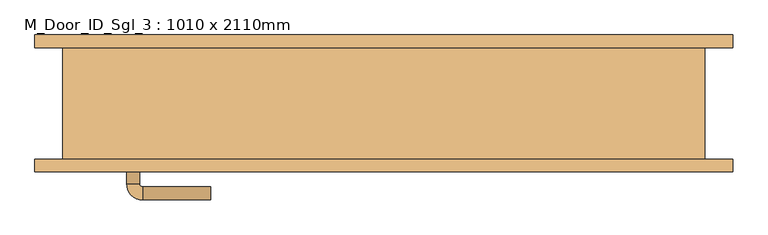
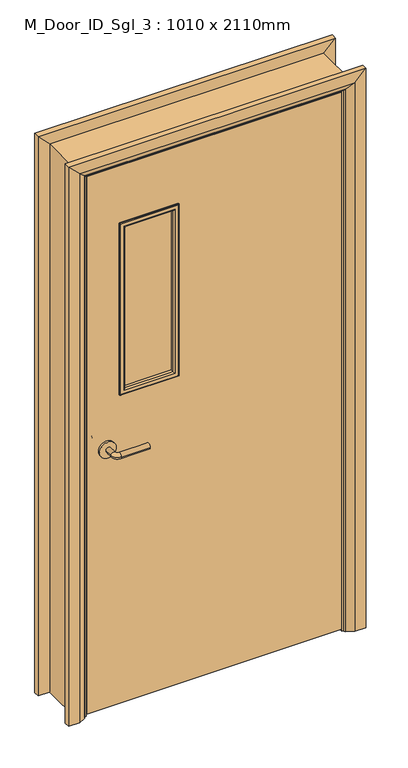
"""IFC4 building model written with IfcOpenShell, lengths in millimetres: door geometry, M_Door_ID_Sgl_3 : 1010 x 2110mm."""

import ifcopenshell
import ifcopenshell.guid

model = None  # the IFC model being written
_history = None  # IfcOwnerHistory: only IFC2X3 demands one
_inside = {}  # id of a spatial element -> (the spatial element, [elements in it])
_under = {}  # id of a project, library or spatial element -> (it, [spatial elements below it])
_declared = {}  # id of a project -> (the project, [libraries it declares])
_typed = {}  # id of a type object -> (the type object, [elements of that type])
_made_of = {}  # id of a material, layer set ... -> (it, [elements and type objects made of it])


def new_model(schema):
    """Start an empty IFC model of exactly this schema.

    Asked for "IFC4X3", IfcOpenShell would pick the latest addendum, in which some entities
    have other attributes; the version numbers below select the first issue.
    IFC2X3 requires an IfcOwnerHistory on every rooted entity: one is made here for all.
    """
    global model, _history
    if schema == "IFC4X3":
        model = ifcopenshell.file(schema_version=(4, 3, 0, 0))
    else:
        model = ifcopenshell.file(schema=schema)
    _inside.clear()
    _under.clear()
    _declared.clear()
    _typed.clear()
    _made_of.clear()
    _history = None
    if model.schema == "IFC2X3":
        org = make("IfcOrganization", Name="unknown")
        user = make(
            "IfcPersonAndOrganization",
            ThePerson=make("IfcPerson", FamilyName="unknown"),
            TheOrganization=org,
        )
        app = make(
            "IfcApplication",
            ApplicationDeveloper=org,
            Version="unknown",
            ApplicationFullName="unknown",
            ApplicationIdentifier="unknown",
        )
        _history = make(
            "IfcOwnerHistory",
            OwningUser=user,
            OwningApplication=app,
            ChangeAction="ADDED",
            CreationDate=0,
        )
    return model


def make(cls, **values):
    """One entity of the class cls with the attributes given. An attribute that is None is left unset."""
    return model.create_entity(
        cls, **{name: value for name, value in values.items() if value is not None}
    )


def rooted(cls, **values):
    """An entity with a GlobalId (a new one), such as an element, a storey or a relation."""
    return make(cls, GlobalId=ifcopenshell.guid.new(), OwnerHistory=_history, **values)


def si_unit(unit_type, name, prefix=None):
    """IfcSIUnit, for example si_unit("LENGTHUNIT", "METRE", prefix="MILLI")."""
    return make("IfcSIUnit", UnitType=unit_type, Prefix=prefix, Name=name)


def assignment(units):
    """IfcUnitAssignment: the units of a project."""
    return None if units is None else make("IfcUnitAssignment", Units=units)


def point(xyz):
    """IfcCartesianPoint."""
    return None if xyz is None else make("IfcCartesianPoint", Coordinates=xyz)


def direction(xyz):
    """IfcDirection."""
    return None if xyz is None else make("IfcDirection", DirectionRatios=xyz)


def frame(location, z_axis=None, x_axis=None):
    """IfcAxis2Placement3D, a coordinate frame: its origin and axes. An axis left out is left unset."""
    return make(
        "IfcAxis2Placement3D",
        Location=point(location),
        Axis=direction(z_axis),
        RefDirection=direction(x_axis),
    )


def frame_2d(location, x_axis=None):
    """IfcAxis2Placement2D, a coordinate frame in the plane: its origin and x axis."""
    return make(
        "IfcAxis2Placement2D", Location=point(location), RefDirection=direction(x_axis)
    )


def origin():
    """The frame at (0, 0, 0) with its axes left unset."""
    return frame((0.0, 0.0, 0.0))


def place(relative_to, where):
    """IfcLocalPlacement: puts the frame where relative to a parent placement (None: the world)."""
    return make(
        "IfcLocalPlacement", PlacementRelTo=relative_to, RelativePlacement=where
    )


def context(
    kind, dimensions, precision=None, world=None, true_north=None, identifier=None
):
    """IfcGeometricRepresentationContext, for example the 3D "Model" context."""
    return make(
        "IfcGeometricRepresentationContext",
        ContextIdentifier=identifier,
        ContextType=kind,
        CoordinateSpaceDimension=dimensions,
        Precision=precision,
        WorldCoordinateSystem=world,
        TrueNorth=true_north,
    )


def project(units=None, contexts=None):
    """IfcProject with its units and contexts."""
    return rooted(
        "IfcProject",
        Name="project",
        RepresentationContexts=contexts,
        UnitsInContext=assignment(units),
    )


def spatial(cls, under=None, at=None, **own):
    """A site, building, storey or space (cls), placed at a placement, below another one or the project."""
    s = rooted(cls, ObjectPlacement=at, **own)
    if under is not None:
        _under.setdefault(under.id(), (under, []))[1].append(s)
    return s


def polyline(points):
    """IfcPolyline through the points."""
    return make("IfcPolyline", Points=[point(p) for p in points])


def circle_curve(where, radius):
    """IfcCircle in the frame where."""
    return make("IfcCircle", Position=where, Radius=radius)


def ellipse_curve(where, semi_axis1, semi_axis2):
    """IfcEllipse in the frame where."""
    return make(
        "IfcEllipse", Position=where, SemiAxis1=semi_axis1, SemiAxis2=semi_axis2
    )


def trimmed(basis, trim1, trim2, sense, master):
    """IfcTrimmedCurve: the piece of a basis curve between two trims."""
    return make(
        "IfcTrimmedCurve",
        BasisCurve=basis,
        Trim1=trim1,
        Trim2=trim2,
        SenseAgreement=sense,
        MasterRepresentation=master,
    )


def segment(curve, same_sense, transition):
    """IfcCompositeCurveSegment."""
    return make(
        "IfcCompositeCurveSegment",
        Transition=transition,
        SameSense=same_sense,
        ParentCurve=curve,
    )


def composite_curve(segments, self_intersect=None):
    """IfcCompositeCurve: segments joined end to end."""
    return make("IfcCompositeCurve", Segments=segments, SelfIntersect=self_intersect)


def outline(outer, holes=None, kind="AREA"):
    """IfcArbitraryClosedProfileDef: a profile drawn as a closed curve; with holes, ...WithVoids."""
    if holes is None:
        return make("IfcArbitraryClosedProfileDef", ProfileType=kind, OuterCurve=outer)
    return make(
        "IfcArbitraryProfileDefWithVoids",
        ProfileType=kind,
        OuterCurve=outer,
        InnerCurves=holes,
    )


def extrude(swept, where, along, depth):
    """IfcExtrudedAreaSolid: the profile swept, set in the frame where, extruded along a direction by depth."""
    return make(
        "IfcExtrudedAreaSolid",
        SweptArea=swept,
        Position=where,
        ExtrudedDirection=direction(along),
        Depth=depth,
    )


def faces_of(points, faces, orient=None, outer=None):
    """IfcFace entities. A face is a list of loops; a loop is a list of indices into points, from 0.

    orient and outer hold one flag for each loop. By default every Orientation is true, the
    first loop of a face is its IfcFaceOuterBound and the others are IfcFaceBound.
    """
    made = []
    for i, loops in enumerate(faces):
        bounds = []
        for j, loop in enumerate(loops):
            is_outer = j == 0 if outer is None else outer[i][j]
            bounds.append(
                make(
                    "IfcFaceOuterBound" if is_outer else "IfcFaceBound",
                    Bound=make("IfcPolyLoop", Polygon=[points[k] for k in loop]),
                    Orientation=True if orient is None else orient[i][j],
                )
            )
        made.append(make("IfcFace", Bounds=bounds))
    return made


def faceted_brep(points, faces, orient=None, outer=None, voids=None):
    """IfcFacetedBrep: a solid bounded by flat faces; with voids (closed shells), ...WithVoids."""
    shared = [point(p) for p in points]
    hull = make("IfcClosedShell", CfsFaces=faces_of(shared, faces, orient, outer))
    if voids is None:
        return make("IfcFacetedBrep", Outer=hull)
    return make(
        "IfcFacetedBrepWithVoids",
        Outer=hull,
        Voids=[
            make(cls, CfsFaces=faces_of(shared, fs, o, b)) for cls, fs, o, b in voids
        ],
    )


def shape(context_of_items, identifier, shape_type, items):
    """IfcShapeRepresentation: the items that make up one representation, for example the "Body"."""
    return make(
        "IfcShapeRepresentation",
        ContextOfItems=context_of_items,
        RepresentationIdentifier=identifier,
        RepresentationType=shape_type,
        Items=items,
    )


def source(mapping_origin, context_of_items, identifier, shape_type, items):
    """IfcRepresentationMap: a shape defined once, which mapped items show again and again."""
    return make(
        "IfcRepresentationMap",
        MappingOrigin=mapping_origin,
        MappedRepresentation=shape(context_of_items, identifier, shape_type, items),
    )


def transform(
    local_origin,
    x_axis=None,
    y_axis=None,
    z_axis=None,
    scale=None,
    scale2=None,
    scale3=None,
    uniform=True,
):
    """IfcCartesianTransformationOperator3D, or its non-uniform kind. x_axis, y_axis, z_axis: its Axis1, 2, 3."""
    if uniform:
        return make(
            "IfcCartesianTransformationOperator3D",
            Axis1=direction(x_axis),
            Axis2=direction(y_axis),
            LocalOrigin=point(local_origin),
            Scale=scale,
            Axis3=direction(z_axis),
        )
    return make(
        "IfcCartesianTransformationOperator3DnonUniform",
        Axis1=direction(x_axis),
        Axis2=direction(y_axis),
        LocalOrigin=point(local_origin),
        Scale=scale,
        Axis3=direction(z_axis),
        Scale2=scale2,
        Scale3=scale3,
    )


def mapped(mapping_source, mapping_target):
    """IfcMappedItem: shows the shape of a source again, moved by a transform."""
    return make(
        "IfcMappedItem", MappingSource=mapping_source, MappingTarget=mapping_target
    )


def made_of(thing, what):
    """Note that an element or type object is made of a material, layer set ...; save() writes the relation."""
    if what is not None:
        _made_of.setdefault(what.id(), (what, []))[1].append(thing)
    return thing


def element(
    cls,
    number,
    at=None,
    inside=None,
    cuts=None,
    type_object=None,
    material=None,
    context=None,
    identifier="Body",
    shape_type=None,
    held_by="IfcProductDefinitionShape",
    body=None,
    shapes=None,
    **own,
):
    """One element of the class cls, such as IfcWall. Its Tag is "e" and its number.

    at: its placement. inside: the storey or other place that contains it. cuts: it is an
    opening in that element (IfcRelVoidsElement). A single representation is given by context,
    identifier, shape_type and body (its items); several are given by shapes. held_by: the class
    of the entity that holds the representations. save() writes the other relations.
    """
    e = rooted(cls, Tag="e%d" % number, ObjectPlacement=at, **own)
    if body is not None:
        shapes = [shape(context, identifier, shape_type, body)]
    if shapes is not None:
        e.Representation = make(held_by, Representations=shapes)
    if inside is not None:
        _inside.setdefault(inside.id(), (inside, []))[1].append(e)
    if cuts is not None:
        rooted(
            "IfcRelVoidsElement", RelatingBuildingElement=cuts, RelatedOpeningElement=e
        )
    if type_object is not None:
        _typed.setdefault(type_object.id(), (type_object, []))[1].append(e)
    return made_of(e, material)


def aggregate(whole, parts):
    """IfcRelAggregates: a whole, such as a stair, and the parts it consists of."""
    return rooted("IfcRelAggregates", RelatingObject=whole, RelatedObjects=parts)


def save(model, path):
    """Write the relations noted so far, then the file.

    IfcRelAggregates (storeys below a building ...), IfcRelContainedInSpatialStructure (elements
    in a storey), IfcRelDefinesByType, IfcRelAssociatesMaterial and IfcRelDeclares: one each for
    every whole, place, type object, material and project.
    """
    for whole, parts in _under.values():
        aggregate(whole, parts)
    for where, things in _inside.values():
        rooted(
            "IfcRelContainedInSpatialStructure",
            RelatedElements=things,
            RelatingStructure=where,
        )
    for kind, things in _typed.values():
        rooted("IfcRelDefinesByType", RelatedObjects=things, RelatingType=kind)
    for what, things in _made_of.values():
        rooted("IfcRelAssociatesMaterial", RelatedObjects=things, RelatingMaterial=what)
    for by, libraries in _declared.values():
        rooted("IfcRelDeclares", RelatingContext=by, RelatedDefinitions=libraries)
    model.write(path)


def plane_surface(at):
    """IfcPlane: the flat surface through the origin of the frame at, square to its z axis."""
    return make("IfcPlane", Position=at)


def cylinder_surface(at, radius):
    """IfcCylindricalSurface: all points at the distance radius from the z axis of the frame at."""
    return make("IfcCylindricalSurface", Position=at, Radius=radius)


def revolved_surface(curve, axis_point, axis_direction):
    """IfcSurfaceOfRevolution: the curve turned about the line through axis_point along axis_direction."""
    return make(
        "IfcSurfaceOfRevolution",
        SweptCurve=make("IfcArbitraryOpenProfileDef", ProfileType="CURVE", Curve=curve),
        AxisPosition=make("IfcAxis1Placement", Location=point(axis_point), Axis=direction(axis_direction)),
    )


def advanced_brep(points, edges, surfaces, faces):
    """IfcAdvancedBrep: a solid bounded by faces that lie on surfaces and meet in shared edges.

    An edge is (start, end): straight between two places in points (the first is 0);
    or (start, end, curve); or (start, end, curve, False) where it runs against its curve.
    A face is (place in surfaces, loops), or (place, loops, False) where it looks against
    its surface's normal. A loop lists edges by number (the first is 1), with a minus sign
    where the edge is run from its end to its start. The first loop is the outer one.
    """
    corners = [point(p) for p in points]
    vertices = [make("IfcVertexPoint", VertexGeometry=c) for c in corners]
    made = []
    for start, end, *more in edges:
        made.append(
            make(
                "IfcEdgeCurve",
                EdgeStart=vertices[start],
                EdgeEnd=vertices[end],
                EdgeGeometry=more[0] if more else make("IfcPolyline", Points=[corners[start], corners[end]]),
                SameSense=more[1] if len(more) > 1 else True,
            )
        )
    hull = []
    for where, loops, *sense in faces:
        bounds = []
        for j, loop in enumerate(loops):
            ring = [make("IfcOrientedEdge", EdgeElement=made[abs(k) - 1], Orientation=k > 0) for k in loop]
            bounds.append(
                make(
                    "IfcFaceOuterBound" if j == 0 else "IfcFaceBound",
                    Bound=make("IfcEdgeLoop", EdgeList=ring),
                    Orientation=True,
                )
            )
        hull.append(make("IfcAdvancedFace", Bounds=bounds, FaceSurface=surfaces[where], SameSense=sense[0] if sense else True))
    return make("IfcAdvancedBrep", Outer=make("IfcClosedShell", CfsFaces=hull))


def m_door_id_sgl_3_1010_x_2110mm_085e0de1(model_context):
    return source(origin(), model_context, "Body", "SolidModel", [
        advanced_brep(
        [(-398.0, -40.0, 1000.0), (-378.0, -40.0, 1000.0), (-398.0, -10.0, 1000.0), (-378.0, -10.0, 1000.0), (-373.0, -5.0, 1000.0), (-373.0, 15.0, 1000.0), (-268.0, 15.0, 1000.0), (-268.0, -5.0, 1000.0)],
        [
            (0, 1, circle_curve(frame((-388.0, -40.0, 1000.0), z_axis=(0.0, -1.0, 0.0), x_axis=(1.0, 0.0, 0.0)), 10.0)),
            (1, 0, circle_curve(frame((-388.0, -40.0, 1000.0), z_axis=(0.0, -1.0, 0.0), x_axis=(1.0, 0.0, 0.0)), 10.0)),
            (0, 2),
            (2, 3, circle_curve(frame((-388.0, -10.0, 1000.0), z_axis=(0.0, -1.0, 0.0), x_axis=(1.0, 0.0, 0.0)), 10.0)),
            (3, 1),
            (3, 2, circle_curve(frame((-388.0, -10.0, 1000.0), z_axis=(0.0, -1.0, 0.0), x_axis=(1.0, 0.0, 0.0)), 10.0)),
            (4, 3, circle_curve(frame((-373.0, -10.0, 1000.0), z_axis=(0.0, 0.0, 1.0), x_axis=(-1.0, 0.0, 0.0)), 5.0)),
            (2, 5, circle_curve(frame((-373.0, -10.0, 1000.0), z_axis=(0.0, 0.0, -1.0), x_axis=(-1.0, 0.0, 0.0)), 25.0)),
            (5, 4, circle_curve(frame((-373.0, 5.0, 1000.0), z_axis=(-1.0, 0.0, 0.0), x_axis=(0.0, -1.0, 0.0)), 10.0)),
            (4, 5, circle_curve(frame((-373.0, 5.0, 1000.0), z_axis=(-1.0, 0.0, 0.0), x_axis=(0.0, -1.0, 0.0)), 10.0)),
            (6, 7, circle_curve(frame((-268.0, 5.0, 1000.0), z_axis=(1.0, 0.0, 0.0), x_axis=(0.0, -1.0, 0.0)), 10.0)),
            (7, 6, circle_curve(frame((-268.0, 5.0, 1000.0), z_axis=(1.0, 0.0, 0.0), x_axis=(0.0, -1.0, 0.0)), 10.0)),
            (5, 6),
            (7, 4),
        ],
        [
            plane_surface(frame((-388.0, -40.0, 1000.0), z_axis=(0.0, -1.0, 0.0), x_axis=(0.0, 0.0, 1.0))),
            cylinder_surface(frame((-388.0, -40.0, 1000.0), z_axis=(0.0, -1.0, 0.0), x_axis=(1.0, 0.0, 0.0)), 10.0),
            revolved_surface(trimmed(ellipse_curve(frame((-388.0, -10.0, 1000.0), z_axis=(0.0, -1.0, 0.0), x_axis=(1.0, 0.0, 0.0)), 10.0, 10.0), [point((-398.0, -10.0, 1000.0))], [point((-378.0, -10.0, 1000.0))], True, "CARTESIAN"), (-373.0, -10.0, 1000.0), (0.0, 0.0, -1.0)),
            revolved_surface(trimmed(ellipse_curve(frame((-388.0, -10.0, 1000.0), z_axis=(0.0, -1.0, 0.0), x_axis=(1.0, 0.0, 0.0)), 10.0, 10.0), [point((-378.0, -10.0, 1000.0))], [point((-398.0, -10.0, 1000.0))], True, "CARTESIAN"), (-373.0, -10.0, 1000.0), (0.0, 0.0, -1.0)),
            plane_surface(frame((-268.0, 5.0, 1000.0), z_axis=(1.0, 0.0, 0.0), x_axis=(0.0, 0.0, 1.0))),
            cylinder_surface(frame((-373.0, 5.0, 1000.0), z_axis=(-1.0, 0.0, 0.0), x_axis=(0.0, -1.0, 0.0)), 10.0),
        ],
        [
            (0, [[1, 2]]),
            (1, [[-1, 3, 4, 5]]),
            (1, [[-2, -5, 6, -3]]),
            (2, [[7, -4, 8, 9]]),
            (3, [[-8, -6, -7, 10]]),
            (4, [[11, 12]]),
            (5, [[-9, 13, -12, 14]]),
            (5, [[-10, -14, -11, -13]]),
        ],
    ),
        extrude(outline(composite_curve([segment(trimmed(circle_curve(frame_2d((1000.0, -390.5)), 30.0), [point((1000.0, -420.5))], [point((1000.0, -360.5))], False, "CARTESIAN"), True, "CONTINUOUS"), segment(trimmed(circle_curve(frame_2d((1000.0, -390.5)), 30.0), [point((1000.0, -360.5))], [point((1000.0, -420.5))], False, "CARTESIAN"), True, "CONTINUOUS")], self_intersect=False)), frame((0.0, -48.0, 0.0), z_axis=(0.0, 1.0, 0.0), x_axis=(0.0, 0.0, 1.0)), (0.0, 0.0, 1.0), 8.0),
        advanced_brep(
        [(-398.0, -94.0, 1000.0), (-378.0, -94.0, 1000.0), (-378.0, -124.0, 1000.0), (-398.0, -124.0, 1000.0), (-373.0, -129.0, 1000.0), (-373.0, -149.0, 1000.0), (-268.0, -149.0, 1000.0), (-268.0, -129.0, 1000.0)],
        [
            (0, 1, circle_curve(frame((-388.0, -94.0, 1000.0), z_axis=(0.0, 1.0, 0.0), x_axis=(1.0, 0.0, 0.0)), 10.0)),
            (1, 0, circle_curve(frame((-388.0, -94.0, 1000.0), z_axis=(0.0, 1.0, 0.0), x_axis=(1.0, 0.0, 0.0)), 10.0)),
            (1, 2),
            (2, 3, circle_curve(frame((-388.0, -124.0, 1000.0), z_axis=(0.0, 1.0, 0.0), x_axis=(1.0, 0.0, 0.0)), 10.0)),
            (3, 0),
            (3, 2, circle_curve(frame((-388.0, -124.0, 1000.0), z_axis=(0.0, 1.0, 0.0), x_axis=(1.0, 0.0, 0.0)), 10.0)),
            (4, 5, circle_curve(frame((-373.0, -139.0, 1000.0), z_axis=(-1.0, 0.0, 0.0), x_axis=(0.0, 1.0, 0.0)), 10.0)),
            (5, 3, circle_curve(frame((-373.0, -124.0, 1000.0), z_axis=(0.0, 0.0, -1.0), x_axis=(-1.0, 0.0, 0.0)), 25.0)),
            (2, 4, circle_curve(frame((-373.0, -124.0, 1000.0), z_axis=(0.0, 0.0, 1.0), x_axis=(-1.0, 0.0, 0.0)), 5.0)),
            (5, 4, circle_curve(frame((-373.0, -139.0, 1000.0), z_axis=(-1.0, 0.0, 0.0), x_axis=(0.0, 1.0, 0.0)), 10.0)),
            (6, 7, circle_curve(frame((-268.0, -139.0, 1000.0), z_axis=(1.0, 0.0, 0.0), x_axis=(0.0, 1.0, 0.0)), 10.0)),
            (7, 6, circle_curve(frame((-268.0, -139.0, 1000.0), z_axis=(1.0, 0.0, 0.0), x_axis=(0.0, 1.0, 0.0)), 10.0)),
            (4, 7),
            (6, 5),
        ],
        [
            plane_surface(frame((-388.0, -94.0, 1000.0), z_axis=(0.0, 1.0, 0.0), x_axis=(0.0, 0.0, 1.0))),
            cylinder_surface(frame((-388.0, -94.0, 1000.0), z_axis=(0.0, 1.0, 0.0), x_axis=(1.0, 0.0, 0.0)), 10.0),
            revolved_surface(trimmed(ellipse_curve(frame((-388.0, -124.0, 1000.0), z_axis=(0.0, -1.0, 0.0), x_axis=(1.0, 0.0, 0.0)), 10.0, 10.0), [point((-398.0, -124.0, 1000.0))], [point((-378.0, -124.0, 1000.0))], True, "CARTESIAN"), (-373.0, -124.0, 1000.0), (0.0, 0.0, -1.0)),
            revolved_surface(trimmed(ellipse_curve(frame((-388.0, -124.0, 1000.0), z_axis=(0.0, -1.0, 0.0), x_axis=(1.0, 0.0, 0.0)), 10.0, 10.0), [point((-378.0, -124.0, 1000.0))], [point((-398.0, -124.0, 1000.0))], True, "CARTESIAN"), (-373.0, -124.0, 1000.0), (0.0, 0.0, -1.0)),
            plane_surface(frame((-268.0, -139.0, 1000.0), z_axis=(1.0, 0.0, 0.0), x_axis=(0.0, 0.0, 1.0))),
            cylinder_surface(frame((-373.0, -139.0, 1000.0), z_axis=(-1.0, 0.0, 0.0), x_axis=(0.0, 1.0, 0.0)), 10.0),
        ],
        [
            (0, [[1, 2]]),
            (1, [[3, 4, 5, -2]]),
            (1, [[-5, 6, -3, -1]]),
            (2, [[7, 8, -4, 9]]),
            (3, [[10, -9, -6, -8]]),
            (4, [[11, 12]]),
            (5, [[13, -11, 14, -7]]),
            (5, [[-14, -12, -13, -10]]),
        ],
    ),
        extrude(outline(composite_curve([segment(trimmed(circle_curve(frame_2d((1000.0, -390.5)), 30.0), [point((1000.0, -420.5))], [point((1000.0, -360.5))], False, "CARTESIAN"), True, "CONTINUOUS"), segment(trimmed(circle_curve(frame_2d((1000.0, -390.5)), 30.0), [point((1000.0, -360.5))], [point((1000.0, -420.5))], False, "CARTESIAN"), True, "CONTINUOUS")], self_intersect=False)), frame((0.0, -94.0, 0.0), z_axis=(0.0, 1.0, 0.0), x_axis=(0.0, 0.0, 1.0)), (0.0, 0.0, 1.0), 8.0),
        extrude(outline(polyline([(2068.0, -463.0), (8.0, -463.0), (8.0, 463.0), (2068.0, 463.0), (2068.0, -463.0)]), holes=[polyline([(1843.0, -138.0), (1200.0, -138.0), (1200.0, -338.0), (1843.0, -338.0), (1843.0, -138.0)])]), frame((0.0, -86.0, 0.0), z_axis=(0.0, 1.0, 0.0), x_axis=(0.0, 0.0, 1.0)), (0.0, 0.0, 1.0), 38.0),
        faceted_brep([(-465.0, -86.0, 0.0), (-497.0, -86.0, 0.0), (-497.0, 86.0, 0.0), (-465.0, 86.0, 0.0), (-465.0, 86.0, 2070.0), (-465.0, -86.0, 2070.0), (-497.0, 86.0, 2102.0), (-497.0, -86.0, 2102.0), (465.0, -86.0, 0.0), (465.0, 86.0, 0.0), (497.0, 86.0, 0.0), (497.0, -86.0, 0.0), (465.0, -86.0, 2070.0), (497.0, -86.0, 2102.0), (497.0, 86.0, 2102.0), (465.0, 86.0, 2070.0)], [[[0, 1, 2, 3]], [[3, 4, 5, 0]], [[2, 6, 4, 3]], [[1, 7, 6, 2]], [[0, 5, 7, 1]], [[8, 9, 10, 11]], [[12, 8, 11, 13]], [[13, 11, 10, 14]], [[14, 10, 9, 15]], [[15, 9, 8, 12]], [[4, 15, 12, 5]], [[6, 14, 15, 4]], [[7, 13, 14, 6]], [[5, 12, 13, 7]]]),
        advanced_brep(
        [(-540.0, 106.0, 0.0), (-500.0, 106.0, 0.0), (-474.0, 92.0, 0.0), (-470.0, 86.0, 0.0), (-540.0, 86.0, 0.0), (-540.0, 86.0, 2145.0), (-540.0, 106.0, 2145.0), (-470.0, 86.0, 2075.0), (-474.0, 92.0, 2079.0), (-500.0, 106.0, 2105.0), (540.0, 106.0, 0.0), (540.0, 86.0, 0.0), (470.0, 86.0, 0.0), (474.0, 92.0, 0.0), (500.0, 106.0, 0.0), (540.0, 106.0, 2145.0), (500.0, 106.0, 2105.0), (474.0, 92.0, 2079.0), (470.0, 86.0, 2075.0), (540.0, 86.0, 2145.0)],
        [
            (0, 1),
            (1, 2),
            (2, 3, circle_curve(frame((-478.0, 85.0, 0.0), z_axis=(0.0, 0.0, -1.0), x_axis=(-1.0, 0.0, 0.0)), 8.0622577)),
            (3, 4),
            (4, 0),
            (4, 5),
            (5, 6),
            (6, 0),
            (3, 7),
            (7, 5),
            (2, 8),
            (8, 7, ellipse_curve(frame((-478.0, 85.0, 2083.0), z_axis=(-0.7071067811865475, 0.0, -0.7071067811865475), x_axis=(0.7071067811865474, 0.0, -0.7071067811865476)), 11.4017543, 8.0622577)),
            (1, 9),
            (9, 8),
            (6, 9),
            (10, 11),
            (11, 12),
            (12, 13, circle_curve(frame((478.0, 85.0, 0.0), z_axis=(0.0, 0.0, -1.0), x_axis=(1.0, 0.0, 0.0)), 8.0622577)),
            (13, 14),
            (14, 10),
            (15, 10),
            (14, 16),
            (16, 15),
            (13, 17),
            (17, 16),
            (12, 18),
            (18, 17, ellipse_curve(frame((478.0, 85.0, 2083.0), z_axis=(0.7071067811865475, 0.0, -0.7071067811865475), x_axis=(0.7071067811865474, 0.0, 0.7071067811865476)), 11.4017543, 8.0622577)),
            (11, 19),
            (19, 18),
            (15, 19),
            (5, 19),
            (15, 6),
            (7, 18),
            (8, 17),
            (9, 16),
        ],
        [
            plane_surface(frame((-470.0, 158.8010989, 0.0), z_axis=(0.0, 0.0, -1.0), x_axis=(1.0, 0.0, 0.0))),
            plane_surface(frame((-540.0, 106.0, 0.0), z_axis=(-1.0, 0.0, 0.0), x_axis=(0.0, 0.0, 1.0))),
            plane_surface(frame((-540.0, 86.0, 0.0), z_axis=(0.0, -1.0, 0.0), x_axis=(0.0, 0.0, 1.0))),
            cylinder_surface(frame((-478.0, 85.0, 0.0), z_axis=(0.0, 0.0, -1.0), x_axis=(-1.0, 0.0, 0.0)), 8.0622577),
            plane_surface(frame((-474.0, 92.0, 0.0), z_axis=(0.4740998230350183, 0.8804710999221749, 0.0), x_axis=(0.0, 0.0, 1.0))),
            plane_surface(frame((-500.0, 106.0, 0.0), z_axis=(0.0, 1.0, 0.0), x_axis=(0.0, 0.0, 1.0))),
            plane_surface(frame((470.0, 158.8010989, 0.0), z_axis=(0.0, 0.0, -1.0), x_axis=(-1.0, 0.0, 0.0))),
            plane_surface(frame((500.0, 106.0, 2105.0), z_axis=(0.0, 1.0, 0.0), x_axis=(0.0, 0.0, -1.0))),
            plane_surface(frame((474.0, 92.0, 2079.0), z_axis=(-0.4740998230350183, 0.8804710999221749, 0.0), x_axis=(0.0, 0.0, -1.0))),
            cylinder_surface(frame((478.0, 85.0, 2075.0), z_axis=(0.0, 0.0, 1.0), x_axis=(1.0, 0.0, 0.0)), 8.0622577),
            plane_surface(frame((540.0, 86.0, 2145.0), z_axis=(0.0, -1.0, 0.0), x_axis=(0.0, 0.0, -1.0))),
            plane_surface(frame((540.0, 106.0, 2145.0), z_axis=(1.0, 0.0, 0.0), x_axis=(0.0, 0.0, -1.0))),
            plane_surface(frame((-540.0, 106.0, 2145.0), z_axis=(0.0, 0.0, 1.0), x_axis=(1.0, 0.0, 0.0))),
            plane_surface(frame((-540.0, 86.0, 2145.0), z_axis=(0.0, -1.0, 0.0), x_axis=(1.0, 0.0, 0.0))),
            cylinder_surface(frame((-470.0, 85.0, 2083.0), z_axis=(-1.0, 0.0, 0.0), x_axis=(0.0, 0.0, 1.0)), 8.0622577),
            plane_surface(frame((-474.0, 92.0, 2079.0), z_axis=(0.0, 0.8804710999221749, -0.4740998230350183), x_axis=(1.0, 0.0, 0.0))),
            plane_surface(frame((-500.0, 106.0, 2105.0), z_axis=(0.0, 1.0, 0.0), x_axis=(1.0, 0.0, 0.0))),
        ],
        [
            (0, [[1, 2, 3, 4, 5]]),
            (1, [[6, 7, 8, -5]]),
            (2, [[9, 10, -6, -4]]),
            (3, [[11, 12, -9, -3]]),
            (4, [[13, 14, -11, -2]]),
            (5, [[-8, 15, -13, -1]]),
            (6, [[16, 17, 18, 19, 20]]),
            (7, [[21, -20, 22, 23]]),
            (8, [[-22, -19, 24, 25]]),
            (9, [[-24, -18, 26, 27]]),
            (10, [[-26, -17, 28, 29]]),
            (11, [[-28, -16, -21, 30]]),
            (12, [[31, -30, 32, -7]]),
            (13, [[33, -29, -31, -10]]),
            (14, [[34, -27, -33, -12]]),
            (15, [[35, -25, -34, -14]]),
            (16, [[-32, -23, -35, -15]]),
        ],
    ),
        advanced_brep(
        [(-540.0, -106.0, 0.0), (-540.0, -86.0, 0.0), (-470.0, -86.0, 0.0), (-474.0, -92.0, 0.0), (-500.0, -106.0, 0.0), (-500.0, -106.0, 2105.0), (-540.0, -106.0, 2145.0), (-474.0, -92.0, 2079.0), (-470.0, -86.0, 2075.0), (-540.0, -86.0, 2145.0), (540.0, -106.0, 0.0), (500.0, -106.0, 0.0), (474.0, -92.0, 0.0), (470.0, -86.0, 0.0), (540.0, -86.0, 0.0), (540.0, -106.0, 2145.0), (540.0, -86.0, 2145.0), (470.0, -86.0, 2075.0), (474.0, -92.0, 2079.0), (500.0, -106.0, 2105.0)],
        [
            (0, 1),
            (1, 2),
            (2, 3, circle_curve(frame((-478.0, -85.0, 0.0), z_axis=(0.0, 0.0, -1.0), x_axis=(-1.0, 0.0, 0.0)), 8.0622577)),
            (3, 4),
            (4, 0),
            (4, 5),
            (5, 6),
            (6, 0),
            (3, 7),
            (7, 5),
            (2, 8),
            (8, 7, ellipse_curve(frame((-478.0, -85.0, 2083.0), z_axis=(-0.7071067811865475, 0.0, -0.7071067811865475), x_axis=(0.7071067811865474, 0.0, -0.7071067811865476)), 11.4017543, 8.0622577)),
            (1, 9),
            (9, 8),
            (6, 9),
            (10, 11),
            (11, 12),
            (12, 13, circle_curve(frame((478.0, -85.0, 0.0), z_axis=(0.0, 0.0, -1.0), x_axis=(1.0, 0.0, 0.0)), 8.0622577)),
            (13, 14),
            (14, 10),
            (15, 10),
            (14, 16),
            (16, 15),
            (13, 17),
            (17, 16),
            (12, 18),
            (18, 17, ellipse_curve(frame((478.0, -85.0, 2083.0), z_axis=(0.7071067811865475, 0.0, -0.7071067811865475), x_axis=(0.7071067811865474, 0.0, 0.7071067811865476)), 11.4017543, 8.0622577)),
            (11, 19),
            (19, 18),
            (15, 19),
            (5, 19),
            (15, 6),
            (7, 18),
            (8, 17),
            (9, 16),
        ],
        [
            plane_surface(frame((-470.0, -13.1989011, 0.0), z_axis=(0.0, 0.0, -1.0), x_axis=(1.0, 0.0, 0.0))),
            plane_surface(frame((-540.0, -106.0, 0.0), z_axis=(0.0, -1.0, 0.0), x_axis=(0.0, 0.0, 1.0))),
            plane_surface(frame((-500.0, -106.0, 0.0), z_axis=(0.4740998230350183, -0.8804710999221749, 0.0), x_axis=(0.0, 0.0, 1.0))),
            cylinder_surface(frame((-478.0, -85.0, 0.0), z_axis=(0.0, 0.0, -1.0), x_axis=(-1.0, 0.0, 0.0)), 8.0622577),
            plane_surface(frame((-470.0, -86.0, 0.0), z_axis=(0.0, 1.0, 0.0), x_axis=(0.0, 0.0, 1.0))),
            plane_surface(frame((-540.0, -86.0, 0.0), z_axis=(-1.0, 0.0, 0.0), x_axis=(0.0, 0.0, 1.0))),
            plane_surface(frame((470.0, -13.1989011, 0.0), z_axis=(0.0, 0.0, -1.0), x_axis=(-1.0, 0.0, 0.0))),
            plane_surface(frame((540.0, -86.0, 2145.0), z_axis=(1.0, 0.0, 0.0), x_axis=(0.0, 0.0, -1.0))),
            plane_surface(frame((470.0, -86.0, 2075.0), z_axis=(0.0, 1.0, 0.0), x_axis=(0.0, 0.0, -1.0))),
            cylinder_surface(frame((478.0, -85.0, 2075.0), z_axis=(0.0, 0.0, 1.0), x_axis=(1.0, 0.0, 0.0)), 8.0622577),
            plane_surface(frame((500.0, -106.0, 2105.0), z_axis=(-0.4740998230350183, -0.8804710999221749, 0.0), x_axis=(0.0, 0.0, -1.0))),
            plane_surface(frame((540.0, -106.0, 2145.0), z_axis=(0.0, -1.0, 0.0), x_axis=(0.0, 0.0, -1.0))),
            plane_surface(frame((-540.0, -106.0, 2145.0), z_axis=(0.0, -1.0, 0.0), x_axis=(1.0, 0.0, 0.0))),
            plane_surface(frame((-500.0, -106.0, 2105.0), z_axis=(0.0, -0.8804710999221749, -0.4740998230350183), x_axis=(1.0, 0.0, 0.0))),
            cylinder_surface(frame((-470.0, -85.0, 2083.0), z_axis=(-1.0, 0.0, 0.0), x_axis=(0.0, 0.0, 1.0)), 8.0622577),
            plane_surface(frame((-470.0, -86.0, 2075.0), z_axis=(0.0, 1.0, 0.0), x_axis=(1.0, 0.0, 0.0))),
            plane_surface(frame((-540.0, -86.0, 2145.0), z_axis=(0.0, 0.0, 1.0), x_axis=(1.0, 0.0, 0.0))),
        ],
        [
            (0, [[1, 2, 3, 4, 5]]),
            (1, [[6, 7, 8, -5]]),
            (2, [[9, 10, -6, -4]]),
            (3, [[11, 12, -9, -3]]),
            (4, [[13, 14, -11, -2]]),
            (5, [[-8, 15, -13, -1]]),
            (6, [[16, 17, 18, 19, 20]]),
            (7, [[21, -20, 22, 23]]),
            (8, [[-22, -19, 24, 25]]),
            (9, [[-24, -18, 26, 27]]),
            (10, [[-26, -17, 28, 29]]),
            (11, [[-28, -16, -21, 30]]),
            (12, [[31, -30, 32, -7]]),
            (13, [[33, -29, -31, -10]]),
            (14, [[34, -27, -33, -12]]),
            (15, [[35, -25, -34, -14]]),
            (16, [[-32, -23, -35, -15]]),
        ],
    ),
        extrude(outline(polyline([(0.0, -446.0), (2051.0, -446.0), (2051.0, 446.0), (0.0, 446.0), (0.0, 465.0), (2070.0, 465.0), (2070.0, -465.0), (0.0, -465.0), (0.0, -446.0)])), frame((0.0, -46.0, 0.0), z_axis=(0.0, 1.0, 0.0), x_axis=(0.0, 0.0, 1.0)), (0.0, 0.0, 1.0), 32.0),
        advanced_brep(
        [(-130.0, -90.0, 1851.0), (-130.0, -90.0, 1192.0), (-130.0, -86.0, 1192.0), (-130.0, -86.0, 1851.0), (-132.0, -92.0, 1849.0), (-132.0, -92.0, 1194.0), (-150.0, -87.0, 1831.0), (-150.0, -87.0, 1212.0), (-145.0, -92.0, 1207.0), (-145.0, -92.0, 1836.0), (-150.0, -76.0, 1831.0), (-150.0, -76.0, 1212.0), (-138.0, -86.0, 1843.0), (-138.0, -86.0, 1200.0), (-138.0, -76.0, 1200.0), (-138.0, -76.0, 1843.0), (-346.0, -90.0, 1192.0), (-346.0, -86.0, 1192.0), (-344.0, -92.0, 1194.0), (-326.0, -87.0, 1212.0), (-331.0, -92.0, 1207.0), (-326.0, -76.0, 1212.0), (-338.0, -86.0, 1200.0), (-338.0, -76.0, 1200.0), (-346.0, -90.0, 1851.0), (-346.0, -86.0, 1851.0), (-344.0, -92.0, 1849.0), (-326.0, -87.0, 1831.0), (-331.0, -92.0, 1836.0), (-326.0, -76.0, 1831.0), (-338.0, -86.0, 1843.0), (-338.0, -76.0, 1843.0)],
        [
            (0, 1),
            (1, 2),
            (2, 3),
            (3, 0),
            (4, 5),
            (5, 1, ellipse_curve(frame((-132.0, -90.0, 1194.0), z_axis=(0.7071067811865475, 0.0, 0.7071067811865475), x_axis=(-0.7071067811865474, 0.0, 0.7071067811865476)), 2.8284271, 2.0)),
            (0, 4, ellipse_curve(frame((-132.0, -90.0, 1849.0), z_axis=(0.7071067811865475, 0.0, -0.7071067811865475), x_axis=(0.7071067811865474, 0.0, 0.7071067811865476)), 2.8284271, 2.0)),
            (6, 7),
            (7, 8, ellipse_curve(frame((-145.0, -87.0, 1207.0), z_axis=(0.7071067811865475, 0.0, 0.7071067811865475), x_axis=(-0.7071067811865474, 0.0, 0.7071067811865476)), 7.0710678, 5.0)),
            (8, 9),
            (9, 6, ellipse_curve(frame((-145.0, -87.0, 1836.0), z_axis=(0.7071067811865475, 0.0, -0.7071067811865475), x_axis=(0.7071067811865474, 0.0, 0.7071067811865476)), 7.0710678, 5.0)),
            (10, 11),
            (11, 7),
            (6, 10),
            (12, 13),
            (13, 14),
            (14, 15),
            (15, 12),
            (1, 16),
            (16, 17),
            (17, 2),
            (5, 18),
            (18, 16, ellipse_curve(frame((-344.0, -90.0, 1194.0), z_axis=(0.7071067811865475, 0.0, -0.7071067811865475), x_axis=(0.7071067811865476, 0.0, 0.7071067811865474)), 2.8284271, 2.0)),
            (7, 19),
            (19, 20, ellipse_curve(frame((-331.0, -87.0, 1207.0), z_axis=(0.7071067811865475, 0.0, -0.7071067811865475), x_axis=(0.7071067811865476, 0.0, 0.7071067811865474)), 7.0710678, 5.0)),
            (20, 8),
            (11, 21),
            (21, 19),
            (13, 22),
            (22, 23),
            (23, 14),
            (16, 24),
            (24, 25),
            (25, 17),
            (18, 26),
            (26, 24, ellipse_curve(frame((-344.0, -90.0, 1849.0), z_axis=(-0.7071067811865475, 0.0, -0.7071067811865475), x_axis=(0.7071067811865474, 0.0, -0.7071067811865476)), 2.8284271, 2.0)),
            (19, 27),
            (27, 28, ellipse_curve(frame((-331.0, -87.0, 1836.0), z_axis=(-0.7071067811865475, 0.0, -0.7071067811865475), x_axis=(0.7071067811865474, 0.0, -0.7071067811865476)), 7.0710678, 5.0)),
            (28, 20),
            (21, 29),
            (29, 27),
            (22, 30),
            (30, 31),
            (31, 23),
            (24, 0),
            (3, 25),
            (26, 4),
            (28, 9),
            (27, 6),
            (29, 10),
            (31, 15),
            (30, 12),
        ],
        [
            plane_surface(frame((-130.0, -86.0, 1851.0), z_axis=(1.0, 0.0, 0.0), x_axis=(0.0, 0.0, -1.0))),
            cylinder_surface(frame((-132.0, -90.0, 1843.0), z_axis=(0.0, 0.0, 1.0), x_axis=(1.0, 0.0, 0.0)), 2.0),
            cylinder_surface(frame((-145.0, -87.0, 1843.0), z_axis=(0.0, 0.0, 1.0), x_axis=(1.0, 0.0, 0.0)), 5.0),
            plane_surface(frame((-150.0, -87.0, 1831.0), z_axis=(-1.0, 0.0, 0.0), x_axis=(0.0, 0.0, -1.0))),
            plane_surface(frame((-138.0, -76.0, 1843.0), z_axis=(1.0, 0.0, 0.0), x_axis=(0.0, 0.0, -1.0))),
            plane_surface(frame((-130.0, -86.0, 1192.0), z_axis=(0.0, 0.0, -1.0), x_axis=(-1.0, 0.0, 0.0))),
            cylinder_surface(frame((-138.0, -90.0, 1194.0), z_axis=(1.0, 0.0, 0.0), x_axis=(0.0, 0.0, -1.0)), 2.0),
            cylinder_surface(frame((-138.0, -87.0, 1207.0), z_axis=(1.0, 0.0, 0.0), x_axis=(0.0, 0.0, -1.0)), 5.0),
            plane_surface(frame((-150.0, -87.0, 1212.0), z_axis=(0.0, 0.0, 1.0), x_axis=(-1.0, 0.0, 0.0))),
            plane_surface(frame((-138.0, -76.0, 1200.0), z_axis=(0.0, 0.0, -1.0), x_axis=(-1.0, 0.0, 0.0))),
            plane_surface(frame((-346.0, -86.0, 1192.0), z_axis=(-1.0, 0.0, 0.0), x_axis=(0.0, 0.0, 1.0))),
            cylinder_surface(frame((-344.0, -90.0, 1200.0), z_axis=(0.0, 0.0, -1.0), x_axis=(-1.0, 0.0, 0.0)), 2.0),
            cylinder_surface(frame((-331.0, -87.0, 1200.0), z_axis=(0.0, 0.0, -1.0), x_axis=(-1.0, 0.0, 0.0)), 5.0),
            plane_surface(frame((-326.0, -87.0, 1212.0), z_axis=(1.0, 0.0, 0.0), x_axis=(0.0, 0.0, 1.0))),
            plane_surface(frame((-338.0, -76.0, 1200.0), z_axis=(-1.0, 0.0, 0.0), x_axis=(0.0, 0.0, 1.0))),
            plane_surface(frame((-346.0, -86.0, 1851.0), z_axis=(0.0, 0.0, 1.0), x_axis=(1.0, 0.0, 0.0))),
            cylinder_surface(frame((-338.0, -90.0, 1849.0), z_axis=(-1.0, 0.0, 0.0), x_axis=(0.0, 0.0, 1.0)), 2.0),
            plane_surface(frame((-344.0, -92.0, 1849.0), z_axis=(0.0, -1.0, 0.0), x_axis=(1.0, 0.0, 0.0))),
            cylinder_surface(frame((-338.0, -87.0, 1836.0), z_axis=(-1.0, 0.0, 0.0), x_axis=(0.0, 0.0, 1.0)), 5.0),
            plane_surface(frame((-326.0, -87.0, 1831.0), z_axis=(0.0, 0.0, -1.0), x_axis=(1.0, 0.0, 0.0))),
            plane_surface(frame((-326.0, -76.0, 1831.0), z_axis=(0.0, 1.0, 0.0), x_axis=(1.0, 0.0, 0.0))),
            plane_surface(frame((-338.0, -76.0, 1843.0), z_axis=(0.0, 0.0, 1.0), x_axis=(1.0, 0.0, 0.0))),
            plane_surface(frame((-338.0, -86.0, 1843.0), z_axis=(0.0, 1.0, 0.0), x_axis=(1.0, 0.0, 0.0))),
        ],
        [
            (0, [[1, 2, 3, 4]]),
            (1, [[5, 6, -1, 7]]),
            (2, [[8, 9, 10, 11]]),
            (3, [[12, 13, -8, 14]]),
            (4, [[15, 16, 17, 18]]),
            (5, [[19, 20, 21, -2]]),
            (6, [[22, 23, -19, -6]]),
            (7, [[24, 25, 26, -9]]),
            (8, [[27, 28, -24, -13]]),
            (9, [[29, 30, 31, -16]]),
            (10, [[32, 33, 34, -20]]),
            (11, [[35, 36, -32, -23]]),
            (12, [[37, 38, 39, -25]]),
            (13, [[40, 41, -37, -28]]),
            (14, [[42, 43, 44, -30]]),
            (15, [[45, -4, 46, -33]]),
            (16, [[47, -7, -45, -36]]),
            (17, [[-5, -47, -35, -22], [-10, -26, -39, 48]]),
            (18, [[49, -11, -48, -38]]),
            (19, [[50, -14, -49, -41]]),
            (20, [[-17, -31, -44, 51], [-12, -50, -40, -27]]),
            (21, [[52, -18, -51, -43]]),
            (22, [[-3, -21, -34, -46], [-15, -52, -42, -29]]),
        ],
    ),
        advanced_brep(
        [(-138.0, -58.0, 1843.0), (-138.0, -58.0, 1200.0), (-138.0, -48.0, 1200.0), (-138.0, -48.0, 1843.0), (-150.0, -47.0, 1831.0), (-150.0, -47.0, 1212.0), (-150.0, -58.0, 1212.0), (-150.0, -58.0, 1831.0), (-145.0, -42.0, 1836.0), (-145.0, -42.0, 1207.0), (-130.0, -44.0, 1851.0), (-130.0, -44.0, 1192.0), (-132.0, -42.0, 1194.0), (-132.0, -42.0, 1849.0), (-130.0, -48.0, 1851.0), (-130.0, -48.0, 1192.0), (-338.0, -58.0, 1200.0), (-338.0, -48.0, 1200.0), (-326.0, -47.0, 1212.0), (-326.0, -58.0, 1212.0), (-331.0, -42.0, 1207.0), (-346.0, -44.0, 1192.0), (-344.0, -42.0, 1194.0), (-346.0, -48.0, 1192.0), (-338.0, -58.0, 1843.0), (-338.0, -48.0, 1843.0), (-326.0, -47.0, 1831.0), (-326.0, -58.0, 1831.0), (-331.0, -42.0, 1836.0), (-346.0, -44.0, 1851.0), (-344.0, -42.0, 1849.0), (-346.0, -48.0, 1851.0)],
        [
            (0, 1),
            (1, 2),
            (2, 3),
            (3, 0),
            (4, 5),
            (5, 6),
            (6, 7),
            (7, 4),
            (8, 9),
            (9, 5, ellipse_curve(frame((-145.0, -47.0, 1207.0), z_axis=(0.7071067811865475, 0.0, 0.7071067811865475), x_axis=(-0.7071067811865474, 0.0, 0.7071067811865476)), 7.0710678, 5.0)),
            (4, 8, ellipse_curve(frame((-145.0, -47.0, 1836.0), z_axis=(0.7071067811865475, 0.0, -0.7071067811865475), x_axis=(0.7071067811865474, 0.0, 0.7071067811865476)), 7.0710678, 5.0)),
            (10, 11),
            (11, 12, ellipse_curve(frame((-132.0, -44.0, 1194.0), z_axis=(0.7071067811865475, 0.0, 0.7071067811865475), x_axis=(-0.7071067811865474, 0.0, 0.7071067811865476)), 2.8284271, 2.0)),
            (12, 13),
            (13, 10, ellipse_curve(frame((-132.0, -44.0, 1849.0), z_axis=(0.7071067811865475, 0.0, -0.7071067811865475), x_axis=(0.7071067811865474, 0.0, 0.7071067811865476)), 2.8284271, 2.0)),
            (14, 15),
            (15, 11),
            (10, 14),
            (1, 16),
            (16, 17),
            (17, 2),
            (5, 18),
            (18, 19),
            (19, 6),
            (9, 20),
            (20, 18, ellipse_curve(frame((-331.0, -47.0, 1207.0), z_axis=(0.7071067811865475, 0.0, -0.7071067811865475), x_axis=(0.7071067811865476, 0.0, 0.7071067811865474)), 7.0710678, 5.0)),
            (11, 21),
            (21, 22, ellipse_curve(frame((-344.0, -44.0, 1194.0), z_axis=(0.7071067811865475, 0.0, -0.7071067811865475), x_axis=(0.7071067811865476, 0.0, 0.7071067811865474)), 2.8284271, 2.0)),
            (22, 12),
            (15, 23),
            (23, 21),
            (16, 24),
            (24, 25),
            (25, 17),
            (18, 26),
            (26, 27),
            (27, 19),
            (20, 28),
            (28, 26, ellipse_curve(frame((-331.0, -47.0, 1836.0), z_axis=(-0.7071067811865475, 0.0, -0.7071067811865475), x_axis=(0.7071067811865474, 0.0, -0.7071067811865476)), 7.0710678, 5.0)),
            (21, 29),
            (29, 30, ellipse_curve(frame((-344.0, -44.0, 1849.0), z_axis=(-0.7071067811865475, 0.0, -0.7071067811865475), x_axis=(0.7071067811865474, 0.0, -0.7071067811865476)), 2.8284271, 2.0)),
            (30, 22),
            (23, 31),
            (31, 29),
            (14, 31),
            (25, 3),
            (24, 0),
            (27, 7),
            (26, 4),
            (28, 8),
            (30, 13),
            (29, 10),
        ],
        [
            plane_surface(frame((-138.0, -48.0, 1843.0), z_axis=(1.0, 0.0, 0.0), x_axis=(0.0, 0.0, -1.0))),
            plane_surface(frame((-150.0, -58.0, 1831.0), z_axis=(-1.0, 0.0, 0.0), x_axis=(0.0, 0.0, -1.0))),
            cylinder_surface(frame((-145.0, -47.0, 1843.0), z_axis=(0.0, 0.0, 1.0), x_axis=(1.0, 0.0, 0.0)), 5.0),
            cylinder_surface(frame((-132.0, -44.0, 1843.0), z_axis=(0.0, 0.0, 1.0), x_axis=(1.0, 0.0, 0.0)), 2.0),
            plane_surface(frame((-130.0, -44.0, 1851.0), z_axis=(1.0, 0.0, 0.0), x_axis=(0.0, 0.0, -1.0))),
            plane_surface(frame((-138.0, -48.0, 1200.0), z_axis=(0.0, 0.0, -1.0), x_axis=(-1.0, 0.0, 0.0))),
            plane_surface(frame((-150.0, -58.0, 1212.0), z_axis=(0.0, 0.0, 1.0), x_axis=(-1.0, 0.0, 0.0))),
            cylinder_surface(frame((-138.0, -47.0, 1207.0), z_axis=(1.0, 0.0, 0.0), x_axis=(0.0, 0.0, -1.0)), 5.0),
            cylinder_surface(frame((-138.0, -44.0, 1194.0), z_axis=(1.0, 0.0, 0.0), x_axis=(0.0, 0.0, -1.0)), 2.0),
            plane_surface(frame((-130.0, -44.0, 1192.0), z_axis=(0.0, 0.0, -1.0), x_axis=(-1.0, 0.0, 0.0))),
            plane_surface(frame((-338.0, -48.0, 1200.0), z_axis=(-1.0, 0.0, 0.0), x_axis=(0.0, 0.0, 1.0))),
            plane_surface(frame((-326.0, -58.0, 1212.0), z_axis=(1.0, 0.0, 0.0), x_axis=(0.0, 0.0, 1.0))),
            cylinder_surface(frame((-331.0, -47.0, 1200.0), z_axis=(0.0, 0.0, -1.0), x_axis=(-1.0, 0.0, 0.0)), 5.0),
            cylinder_surface(frame((-344.0, -44.0, 1200.0), z_axis=(0.0, 0.0, -1.0), x_axis=(-1.0, 0.0, 0.0)), 2.0),
            plane_surface(frame((-346.0, -44.0, 1192.0), z_axis=(-1.0, 0.0, 0.0), x_axis=(0.0, 0.0, 1.0))),
            plane_surface(frame((-346.0, -48.0, 1851.0), z_axis=(0.0, -1.0, 0.0), x_axis=(1.0, 0.0, 0.0))),
            plane_surface(frame((-338.0, -48.0, 1843.0), z_axis=(0.0, 0.0, 1.0), x_axis=(1.0, 0.0, 0.0))),
            plane_surface(frame((-338.0, -58.0, 1843.0), z_axis=(0.0, -1.0, 0.0), x_axis=(1.0, 0.0, 0.0))),
            plane_surface(frame((-326.0, -58.0, 1831.0), z_axis=(0.0, 0.0, -1.0), x_axis=(1.0, 0.0, 0.0))),
            cylinder_surface(frame((-338.0, -47.0, 1836.0), z_axis=(-1.0, 0.0, 0.0), x_axis=(0.0, 0.0, 1.0)), 5.0),
            plane_surface(frame((-331.0, -42.0, 1836.0), z_axis=(0.0, 1.0, 0.0), x_axis=(1.0, 0.0, 0.0))),
            cylinder_surface(frame((-338.0, -44.0, 1849.0), z_axis=(-1.0, 0.0, 0.0), x_axis=(0.0, 0.0, 1.0)), 2.0),
            plane_surface(frame((-346.0, -44.0, 1851.0), z_axis=(0.0, 0.0, 1.0), x_axis=(1.0, 0.0, 0.0))),
        ],
        [
            (0, [[1, 2, 3, 4]]),
            (1, [[5, 6, 7, 8]]),
            (2, [[9, 10, -5, 11]]),
            (3, [[12, 13, 14, 15]]),
            (4, [[16, 17, -12, 18]]),
            (5, [[19, 20, 21, -2]]),
            (6, [[22, 23, 24, -6]]),
            (7, [[25, 26, -22, -10]]),
            (8, [[27, 28, 29, -13]]),
            (9, [[30, 31, -27, -17]]),
            (10, [[32, 33, 34, -20]]),
            (11, [[35, 36, 37, -23]]),
            (12, [[38, 39, -35, -26]]),
            (13, [[40, 41, 42, -28]]),
            (14, [[43, 44, -40, -31]]),
            (15, [[-16, 45, -43, -30], [-3, -21, -34, 46]]),
            (16, [[47, -4, -46, -33]]),
            (17, [[-1, -47, -32, -19], [-7, -24, -37, 48]]),
            (18, [[49, -8, -48, -36]]),
            (19, [[50, -11, -49, -39]]),
            (20, [[-14, -29, -42, 51], [-9, -50, -38, -25]]),
            (21, [[52, -15, -51, -41]]),
            (22, [[-45, -18, -52, -44]]),
        ],
    ),
        extrude(outline(polyline([(-338.0, -76.0), (-338.0, -58.0), (-138.0, -58.0), (-138.0, -76.0), (-338.0, -76.0)])), frame((0.0, 0.0, 1200.0), z_axis=(0.0, 0.0, 1.0), x_axis=(1.0, 0.0, 0.0)), (0.0, 0.0, 1.0), 643.0),
    ])


if __name__ == "__main__":
    model = new_model("IFC4")
    model_context = context("Model", 3, world=origin())
    ifc_project = project(units=[si_unit("LENGTHUNIT", "METRE", prefix="MILLI")], contexts=[model_context])
    site = spatial("IfcSite", under=ifc_project)
    building = spatial("IfcBuilding", under=site)
    placement = place(None, origin())
    m_door_id_sgl_3_1010_x_2110mm_shape = m_door_id_sgl_3_1010_x_2110mm_085e0de1(model_context)
    element("IfcDoor", 1, ObjectType="M_Door_ID_Sgl_3 : 1010 x 2110mm", at=placement, inside=building, context=model_context, shape_type="MappedRepresentation", body=[
        mapped(m_door_id_sgl_3_1010_x_2110mm_shape, transform((0.0, 0.0, 0.0), x_axis=(1.0, 0.0, 0.0), y_axis=(0.0, 1.0, 0.0), z_axis=(0.0, 0.0, 1.0))),
    ])
    save(model, "model.ifc")
